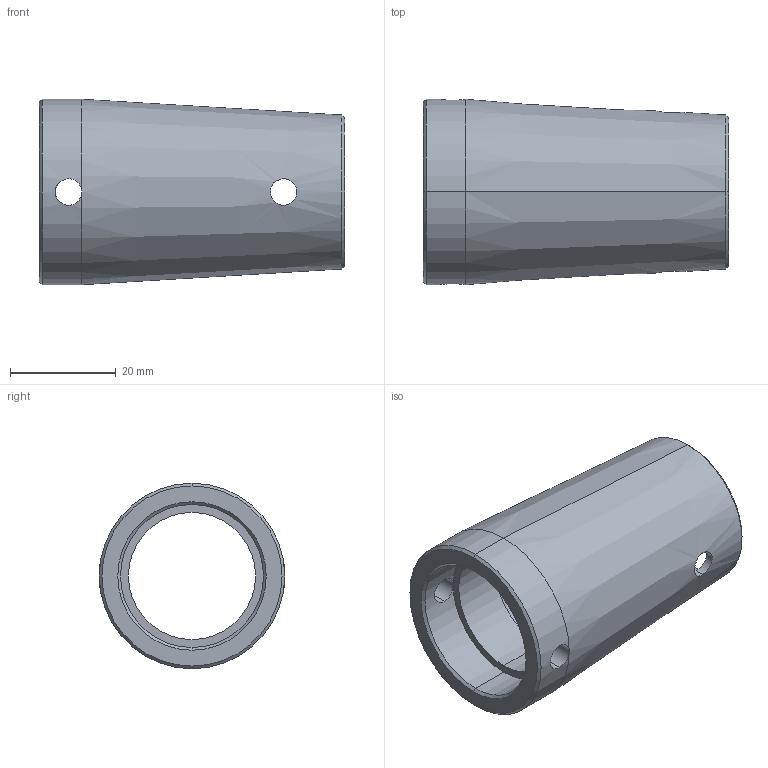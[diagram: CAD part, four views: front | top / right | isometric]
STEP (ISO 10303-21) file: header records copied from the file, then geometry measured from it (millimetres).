
FILE_DESCRIPTION (( 'STEP AP203' ), '1' );
FILE_NAME ('Abdeckhülse M24.STEP', '2018-02-20T06:50:22', ( 'install' ), ( 'Hewlett-Packard Company' ), 'SwSTEP 2.0', 'SolidWorks 2017', '' );
FILE_SCHEMA (( 'CONFIG_CONTROL_DESIGN' ));
Length unit declared in the file: millimetre
Products named in the file (1): Abdeckhülse M24
Bounding box: 57.6 x 35 x 35 mm (x, y, z)
Volume: 17741.8 mm3; surface area: 11164.4 mm2
Topology: 1 solids, 1 shells, 31 faces, 82 edges, 50 vertices
Faces by surface type: cylinder 18, cone 8, plane 5
Entity records: 1497 total; most frequent: CARTESIAN_POINT 650, ORIENTED_EDGE 164, DIRECTION 158, EDGE_CURVE 82, AXIS2_PLACEMENT_3D 66, VERTEX_POINT 50, EDGE_LOOP 38, CIRCLE 34
